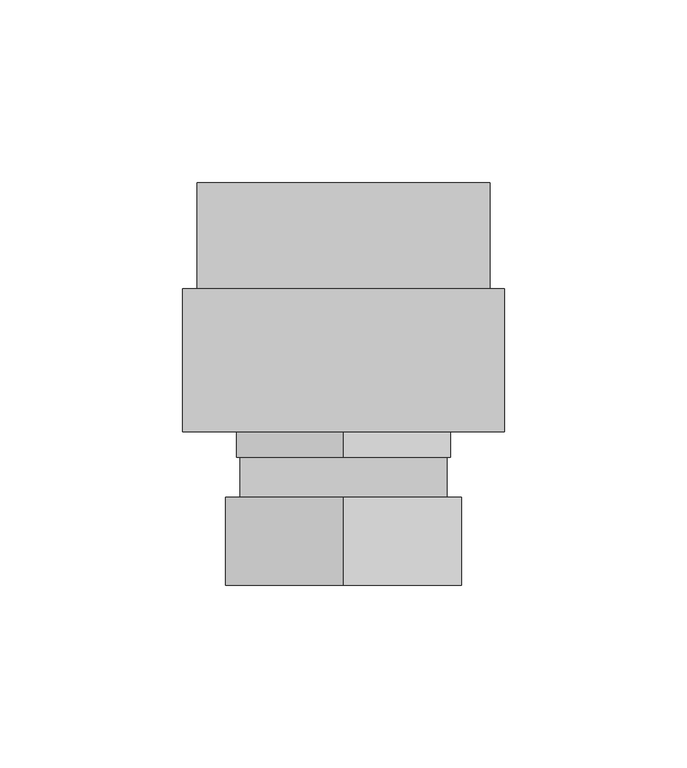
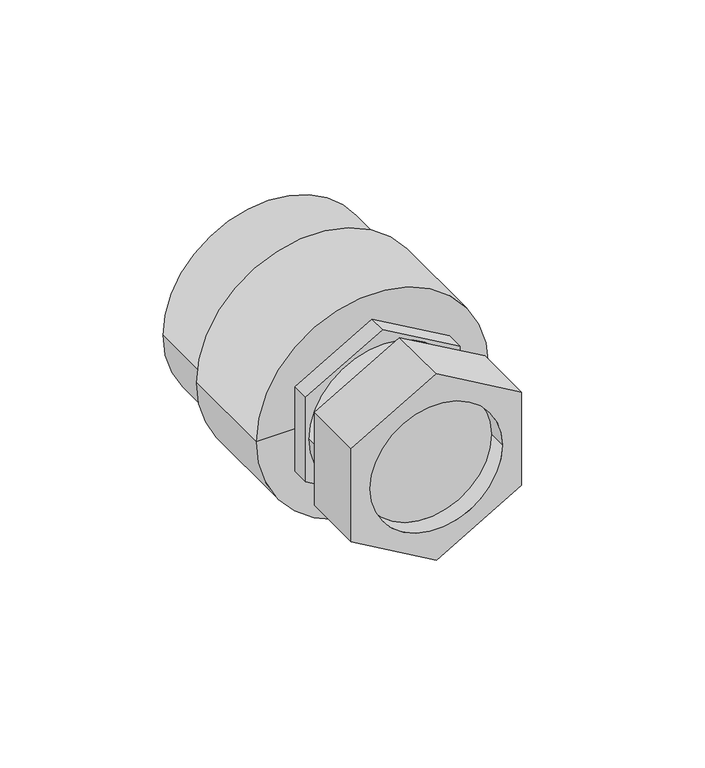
"""IFC4 building model written with IfcOpenShell, lengths in millimetres: pipe fitting geometry, NIRON RED termofusion roscado racor loco : Estándar."""

import ifcopenshell
import ifcopenshell.guid

model = None  # the IFC model being written
_history = None  # IfcOwnerHistory: only IFC2X3 demands one
_inside = {}  # id of a spatial element -> (the spatial element, [elements in it])
_under = {}  # id of a project, library or spatial element -> (it, [spatial elements below it])
_declared = {}  # id of a project -> (the project, [libraries it declares])
_typed = {}  # id of a type object -> (the type object, [elements of that type])
_made_of = {}  # id of a material, layer set ... -> (it, [elements and type objects made of it])


def new_model(schema):
    """Start an empty IFC model of exactly this schema.

    Asked for "IFC4X3", IfcOpenShell would pick the latest addendum, in which some entities
    have other attributes; the version numbers below select the first issue.
    IFC2X3 requires an IfcOwnerHistory on every rooted entity: one is made here for all.
    """
    global model, _history
    if schema == "IFC4X3":
        model = ifcopenshell.file(schema_version=(4, 3, 0, 0))
    else:
        model = ifcopenshell.file(schema=schema)
    _inside.clear()
    _under.clear()
    _declared.clear()
    _typed.clear()
    _made_of.clear()
    _history = None
    if model.schema == "IFC2X3":
        org = make("IfcOrganization", Name="unknown")
        user = make(
            "IfcPersonAndOrganization",
            ThePerson=make("IfcPerson", FamilyName="unknown"),
            TheOrganization=org,
        )
        app = make(
            "IfcApplication",
            ApplicationDeveloper=org,
            Version="unknown",
            ApplicationFullName="unknown",
            ApplicationIdentifier="unknown",
        )
        _history = make(
            "IfcOwnerHistory",
            OwningUser=user,
            OwningApplication=app,
            ChangeAction="ADDED",
            CreationDate=0,
        )
    return model


def make(cls, **values):
    """One entity of the class cls with the attributes given. An attribute that is None is left unset."""
    return model.create_entity(
        cls, **{name: value for name, value in values.items() if value is not None}
    )


def rooted(cls, **values):
    """An entity with a GlobalId (a new one), such as an element, a storey or a relation."""
    return make(cls, GlobalId=ifcopenshell.guid.new(), OwnerHistory=_history, **values)


def si_unit(unit_type, name, prefix=None):
    """IfcSIUnit, for example si_unit("LENGTHUNIT", "METRE", prefix="MILLI")."""
    return make("IfcSIUnit", UnitType=unit_type, Prefix=prefix, Name=name)


def assignment(units):
    """IfcUnitAssignment: the units of a project."""
    return None if units is None else make("IfcUnitAssignment", Units=units)


def point(xyz):
    """IfcCartesianPoint."""
    return None if xyz is None else make("IfcCartesianPoint", Coordinates=xyz)


def direction(xyz):
    """IfcDirection."""
    return None if xyz is None else make("IfcDirection", DirectionRatios=xyz)


def frame(location, z_axis=None, x_axis=None):
    """IfcAxis2Placement3D, a coordinate frame: its origin and axes. An axis left out is left unset."""
    return make(
        "IfcAxis2Placement3D",
        Location=point(location),
        Axis=direction(z_axis),
        RefDirection=direction(x_axis),
    )


def frame_2d(location, x_axis=None):
    """IfcAxis2Placement2D, a coordinate frame in the plane: its origin and x axis."""
    return make(
        "IfcAxis2Placement2D", Location=point(location), RefDirection=direction(x_axis)
    )


def origin():
    """The frame at (0, 0, 0) with its axes left unset."""
    return frame((0.0, 0.0, 0.0))


def origin_2d():
    """The frame at (0, 0) in the plane with its x axis left unset."""
    return frame_2d((0.0, 0.0))


def place(relative_to, where):
    """IfcLocalPlacement: puts the frame where relative to a parent placement (None: the world)."""
    return make(
        "IfcLocalPlacement", PlacementRelTo=relative_to, RelativePlacement=where
    )


def context(
    kind, dimensions, precision=None, world=None, true_north=None, identifier=None
):
    """IfcGeometricRepresentationContext, for example the 3D "Model" context."""
    return make(
        "IfcGeometricRepresentationContext",
        ContextIdentifier=identifier,
        ContextType=kind,
        CoordinateSpaceDimension=dimensions,
        Precision=precision,
        WorldCoordinateSystem=world,
        TrueNorth=true_north,
    )


def project(units=None, contexts=None):
    """IfcProject with its units and contexts."""
    return rooted(
        "IfcProject",
        Name="project",
        RepresentationContexts=contexts,
        UnitsInContext=assignment(units),
    )


def spatial(cls, under=None, at=None, **own):
    """A site, building, storey or space (cls), placed at a placement, below another one or the project."""
    s = rooted(cls, ObjectPlacement=at, **own)
    if under is not None:
        _under.setdefault(under.id(), (under, []))[1].append(s)
    return s


def polyline(points):
    """IfcPolyline through the points."""
    return make("IfcPolyline", Points=[point(p) for p in points])


def circle_curve(where, radius):
    """IfcCircle in the frame where."""
    return make("IfcCircle", Position=where, Radius=radius)


def trimmed(basis, trim1, trim2, sense, master):
    """IfcTrimmedCurve: the piece of a basis curve between two trims."""
    return make(
        "IfcTrimmedCurve",
        BasisCurve=basis,
        Trim1=trim1,
        Trim2=trim2,
        SenseAgreement=sense,
        MasterRepresentation=master,
    )


def segment(curve, same_sense, transition):
    """IfcCompositeCurveSegment."""
    return make(
        "IfcCompositeCurveSegment",
        Transition=transition,
        SameSense=same_sense,
        ParentCurve=curve,
    )


def composite_curve(segments, self_intersect=None):
    """IfcCompositeCurve: segments joined end to end."""
    return make("IfcCompositeCurve", Segments=segments, SelfIntersect=self_intersect)


def outline(outer, holes=None, kind="AREA"):
    """IfcArbitraryClosedProfileDef: a profile drawn as a closed curve; with holes, ...WithVoids."""
    if holes is None:
        return make("IfcArbitraryClosedProfileDef", ProfileType=kind, OuterCurve=outer)
    return make(
        "IfcArbitraryProfileDefWithVoids",
        ProfileType=kind,
        OuterCurve=outer,
        InnerCurves=holes,
    )


def extrude(swept, where, along, depth):
    """IfcExtrudedAreaSolid: the profile swept, set in the frame where, extruded along a direction by depth."""
    return make(
        "IfcExtrudedAreaSolid",
        SweptArea=swept,
        Position=where,
        ExtrudedDirection=direction(along),
        Depth=depth,
    )


def shape(context_of_items, identifier, shape_type, items):
    """IfcShapeRepresentation: the items that make up one representation, for example the "Body"."""
    return make(
        "IfcShapeRepresentation",
        ContextOfItems=context_of_items,
        RepresentationIdentifier=identifier,
        RepresentationType=shape_type,
        Items=items,
    )


def source(mapping_origin, context_of_items, identifier, shape_type, items):
    """IfcRepresentationMap: a shape defined once, which mapped items show again and again."""
    return make(
        "IfcRepresentationMap",
        MappingOrigin=mapping_origin,
        MappedRepresentation=shape(context_of_items, identifier, shape_type, items),
    )


def transform(
    local_origin,
    x_axis=None,
    y_axis=None,
    z_axis=None,
    scale=None,
    scale2=None,
    scale3=None,
    uniform=True,
):
    """IfcCartesianTransformationOperator3D, or its non-uniform kind. x_axis, y_axis, z_axis: its Axis1, 2, 3."""
    if uniform:
        return make(
            "IfcCartesianTransformationOperator3D",
            Axis1=direction(x_axis),
            Axis2=direction(y_axis),
            LocalOrigin=point(local_origin),
            Scale=scale,
            Axis3=direction(z_axis),
        )
    return make(
        "IfcCartesianTransformationOperator3DnonUniform",
        Axis1=direction(x_axis),
        Axis2=direction(y_axis),
        LocalOrigin=point(local_origin),
        Scale=scale,
        Axis3=direction(z_axis),
        Scale2=scale2,
        Scale3=scale3,
    )


def mapped(mapping_source, mapping_target):
    """IfcMappedItem: shows the shape of a source again, moved by a transform."""
    return make(
        "IfcMappedItem", MappingSource=mapping_source, MappingTarget=mapping_target
    )


def made_of(thing, what):
    """Note that an element or type object is made of a material, layer set ...; save() writes the relation."""
    if what is not None:
        _made_of.setdefault(what.id(), (what, []))[1].append(thing)
    return thing


def element(
    cls,
    number,
    at=None,
    inside=None,
    cuts=None,
    type_object=None,
    material=None,
    context=None,
    identifier="Body",
    shape_type=None,
    held_by="IfcProductDefinitionShape",
    body=None,
    shapes=None,
    **own,
):
    """One element of the class cls, such as IfcWall. Its Tag is "e" and its number.

    at: its placement. inside: the storey or other place that contains it. cuts: it is an
    opening in that element (IfcRelVoidsElement). A single representation is given by context,
    identifier, shape_type and body (its items); several are given by shapes. held_by: the class
    of the entity that holds the representations. save() writes the other relations.
    """
    e = rooted(cls, Tag="e%d" % number, ObjectPlacement=at, **own)
    if body is not None:
        shapes = [shape(context, identifier, shape_type, body)]
    if shapes is not None:
        e.Representation = make(held_by, Representations=shapes)
    if inside is not None:
        _inside.setdefault(inside.id(), (inside, []))[1].append(e)
    if cuts is not None:
        rooted(
            "IfcRelVoidsElement", RelatingBuildingElement=cuts, RelatedOpeningElement=e
        )
    if type_object is not None:
        _typed.setdefault(type_object.id(), (type_object, []))[1].append(e)
    return made_of(e, material)


def aggregate(whole, parts):
    """IfcRelAggregates: a whole, such as a stair, and the parts it consists of."""
    return rooted("IfcRelAggregates", RelatingObject=whole, RelatedObjects=parts)


def save(model, path):
    """Write the relations noted so far, then the file.

    IfcRelAggregates (storeys below a building ...), IfcRelContainedInSpatialStructure (elements
    in a storey), IfcRelDefinesByType, IfcRelAssociatesMaterial and IfcRelDeclares: one each for
    every whole, place, type object, material and project.
    """
    for whole, parts in _under.values():
        aggregate(whole, parts)
    for where, things in _inside.values():
        rooted(
            "IfcRelContainedInSpatialStructure",
            RelatedElements=things,
            RelatingStructure=where,
        )
    for kind, things in _typed.values():
        rooted("IfcRelDefinesByType", RelatedObjects=things, RelatingType=kind)
    for what, things in _made_of.values():
        rooted("IfcRelAssociatesMaterial", RelatedObjects=things, RelatingMaterial=what)
    for by, libraries in _declared.values():
        rooted("IfcRelDeclares", RelatingContext=by, RelatedDefinitions=libraries)
    model.write(path)


def plane_surface(at):
    """IfcPlane: the flat surface through the origin of the frame at, square to its z axis."""
    return make("IfcPlane", Position=at)


def cylinder_surface(at, radius):
    """IfcCylindricalSurface: all points at the distance radius from the z axis of the frame at."""
    return make("IfcCylindricalSurface", Position=at, Radius=radius)


def revolved_surface(curve, axis_point, axis_direction):
    """IfcSurfaceOfRevolution: the curve turned about the line through axis_point along axis_direction."""
    return make(
        "IfcSurfaceOfRevolution",
        SweptCurve=make("IfcArbitraryOpenProfileDef", ProfileType="CURVE", Curve=curve),
        AxisPosition=make("IfcAxis1Placement", Location=point(axis_point), Axis=direction(axis_direction)),
    )


def advanced_brep(points, edges, surfaces, faces):
    """IfcAdvancedBrep: a solid bounded by faces that lie on surfaces and meet in shared edges.

    An edge is (start, end): straight between two places in points (the first is 0);
    or (start, end, curve); or (start, end, curve, False) where it runs against its curve.
    A face is (place in surfaces, loops), or (place, loops, False) where it looks against
    its surface's normal. A loop lists edges by number (the first is 1), with a minus sign
    where the edge is run from its end to its start. The first loop is the outer one.
    """
    corners = [point(p) for p in points]
    vertices = [make("IfcVertexPoint", VertexGeometry=c) for c in corners]
    made = []
    for start, end, *more in edges:
        made.append(
            make(
                "IfcEdgeCurve",
                EdgeStart=vertices[start],
                EdgeEnd=vertices[end],
                EdgeGeometry=more[0] if more else make("IfcPolyline", Points=[corners[start], corners[end]]),
                SameSense=more[1] if len(more) > 1 else True,
            )
        )
    hull = []
    for where, loops, *sense in faces:
        bounds = []
        for j, loop in enumerate(loops):
            ring = [make("IfcOrientedEdge", EdgeElement=made[abs(k) - 1], Orientation=k > 0) for k in loop]
            bounds.append(
                make(
                    "IfcFaceOuterBound" if j == 0 else "IfcFaceBound",
                    Bound=make("IfcEdgeLoop", EdgeList=ring),
                    Orientation=True,
                )
            )
        hull.append(make("IfcAdvancedFace", Bounds=bounds, FaceSurface=surfaces[where], SameSense=sense[0] if sense else True))
    return make("IfcAdvancedBrep", Outer=make("IfcClosedShell", CfsFaces=hull))


def pipe_fitting_b4a654ed(model_context):
    return source(origin(), model_context, "Body", "SolidModel", [
        advanced_brep(
        [(32.25, 9.0, -18.6195462), (32.25, 9.0, 18.6195462), (0.0, 9.0, 37.2390924), (-32.25, 9.0, 18.6195462), (-32.25, 9.0, -18.6195462), (0.0, 9.0, -37.2390924), (25.0, 9.0, 0.0), (-25.0, 9.0, 0.0), (32.25, 33.0, -18.6195462), (0.0, 33.0, -37.2390924), (-32.25, 33.0, -18.6195462), (-32.25, 33.0, 18.6195462), (0.0, 33.0, 37.2390924), (32.25, 33.0, 18.6195462), (-25.0, 16.0570795, 0.0), (25.0, 16.0570795, 0.0)],
        [
            (0, 1),
            (1, 2),
            (2, 3),
            (3, 4),
            (4, 5),
            (5, 0),
            (6, 7, circle_curve(frame((0.0, 9.0, 0.0), z_axis=(0.0, 1.0, 0.0), x_axis=(1.0, 0.0, 0.0)), 25.0)),
            (7, 6, circle_curve(frame((0.0, 9.0, 0.0), z_axis=(0.0, 1.0, 0.0), x_axis=(1.0, 0.0, 0.0)), 25.0)),
            (8, 9),
            (9, 10),
            (10, 11),
            (11, 12),
            (12, 13),
            (13, 8),
            (0, 8),
            (13, 1),
            (12, 2),
            (11, 3),
            (10, 4),
            (9, 5),
            (14, 15, circle_curve(frame((0.0, 16.0570795, 0.0), z_axis=(0.0, -1.0, 0.0), x_axis=(1.0, 0.0, 0.0)), 25.0)),
            (15, 14, circle_curve(frame((0.0, 16.0570795, 0.0), z_axis=(0.0, -1.0, 0.0), x_axis=(1.0, 0.0, 0.0)), 25.0)),
            (14, 7),
            (6, 15),
        ],
        [
            plane_surface(frame((0.0, 9.0, 0.0), z_axis=(0.0, -1.0, 0.0), x_axis=(0.0, 0.0, 1.0))),
            plane_surface(frame((0.0, 33.0, 0.0), z_axis=(0.0, 1.0, 0.0), x_axis=(0.0, 0.0, 1.0))),
            plane_surface(frame((32.25, 9.0, -18.6195462), z_axis=(1.0, 0.0, 0.0), x_axis=(0.0, 1.0, 0.0))),
            plane_surface(frame((32.25, 9.0, 18.6195462), z_axis=(0.4999999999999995, 0.0, 0.866025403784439), x_axis=(0.0, 1.0, 0.0))),
            plane_surface(frame((0.0, 9.0, 37.2390924), z_axis=(-0.4999999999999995, 0.0, 0.866025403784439), x_axis=(0.0, 1.0, 0.0))),
            plane_surface(frame((-32.25, 9.0, 18.6195462), z_axis=(-1.0, 0.0, 0.0), x_axis=(0.0, 1.0, 0.0))),
            plane_surface(frame((-32.25, 9.0, -18.6195462), z_axis=(-0.49999999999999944, 0.0, -0.866025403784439), x_axis=(0.0, 1.0, 0.0))),
            plane_surface(frame((0.0, 9.0, -37.2390924), z_axis=(0.4999999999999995, 0.0, -0.8660254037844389), x_axis=(0.0, 1.0, 0.0))),
            plane_surface(frame((25.0, 16.0570795, 0.0), z_axis=(0.0, -1.0, 0.0), x_axis=(0.0, 0.0, -1.0))),
            revolved_surface(polyline([(25.0, 9.0, 0.0), (25.0, 16.0570795, 0.0)]), (0.0, 16.0570795, 0.0), (0.0, -1.0, 0.0)),
        ],
        [
            (0, [[1, 2, 3, 4, 5, 6], [7, 8]]),
            (1, [[9, 10, 11, 12, 13, 14]]),
            (2, [[-1, 15, -14, 16]]),
            (3, [[-2, -16, -13, 17]]),
            (4, [[-3, -17, -12, 18]]),
            (5, [[-4, -18, -11, 19]]),
            (6, [[-5, -19, -10, 20]]),
            (7, [[-6, -20, -9, -15]]),
            (8, [[21, 22]]),
            (9, [[-21, 23, -7, 24]]),
            (9, [[-22, -24, -8, -23]]),
        ],
    ),
        extrude(outline(polyline([(-16.8874954, 29.25), (16.8874954, 29.25), (33.7749907, 0.0), (16.8874954, -29.25), (-16.8874954, -29.25), (-33.7749907, 0.0), (-16.8874954, 29.25)])), frame((0.0, 44.0, 0.0), z_axis=(0.0, 1.0, 0.0), x_axis=(0.0, 0.0, 1.0)), (0.0, 0.0, 1.0), 7.0),
        extrude(outline(composite_curve([segment(trimmed(circle_curve(origin_2d(), 28.25), [point((0.0, -28.25))], [point((0.0, 28.25))], False, "CARTESIAN"), True, "CONTINUOUS"), segment(trimmed(circle_curve(origin_2d(), 28.25), [point((0.0, 28.25))], [point((0.0, -28.25))], False, "CARTESIAN"), True, "CONTINUOUS")], self_intersect=False)), frame((0.0, 33.0, 0.0), z_axis=(0.0, 1.0, 0.0), x_axis=(0.0, 0.0, 1.0)), (0.0, 0.0, 1.0), 11.0),
        advanced_brep(
        [(40.0, 119.0, 0.0), (-40.0, 119.0, 0.0), (0.0, 119.0, 0.0), (44.0, 51.0, 0.0), (-44.0, 51.0, 0.0), (-44.0, 90.0, 0.0), (44.0, 90.0, 0.0), (0.0, 51.0, 0.0), (40.0, 90.0, 0.0), (-40.0, 90.0, 0.0)],
        [
            (0, 1, circle_curve(frame((0.0, 119.0, 0.0), z_axis=(0.0, 1.0, 0.0), x_axis=(-1.0, 0.0, 0.0)), 40.0)),
            (1, 2),
            (2, 0),
            (1, 0, circle_curve(frame((0.0, 119.0, 0.0), z_axis=(0.0, 1.0, 0.0), x_axis=(-1.0, 0.0, 0.0)), 40.0)),
            (3, 4, circle_curve(frame((0.0, 51.0, 0.0), z_axis=(0.0, 1.0, 0.0), x_axis=(-1.0, 0.0, 0.0)), 44.0)),
            (4, 5),
            (5, 6, circle_curve(frame((0.0, 90.0, 0.0), z_axis=(0.0, -1.0, 0.0), x_axis=(-1.0, 0.0, 0.0)), 44.0)),
            (6, 3),
            (4, 3, circle_curve(frame((0.0, 51.0, 0.0), z_axis=(0.0, 1.0, 0.0), x_axis=(-1.0, 0.0, 0.0)), 44.0)),
            (6, 5, circle_curve(frame((0.0, 90.0, 0.0), z_axis=(0.0, -1.0, 0.0), x_axis=(-1.0, 0.0, 0.0)), 44.0)),
            (7, 4),
            (3, 7),
            (8, 9, circle_curve(frame((0.0, 90.0, 0.0), z_axis=(0.0, 1.0, 0.0), x_axis=(-1.0, 0.0, 0.0)), 40.0)),
            (9, 1),
            (0, 8),
            (9, 8, circle_curve(frame((0.0, 90.0, 0.0), z_axis=(0.0, 1.0, 0.0), x_axis=(-1.0, 0.0, 0.0)), 40.0)),
            (5, 9),
            (8, 6),
        ],
        [
            plane_surface(frame((0.0, 119.0, 0.0), z_axis=(0.0, 1.0, 0.0), x_axis=(-1.0, 0.0, 0.0))),
            cylinder_surface(frame((0.0, 129.0, 0.0), z_axis=(0.0, -1.0, 0.0), x_axis=(-1.0, 0.0, 0.0)), 44.0),
            plane_surface(frame((0.0, 51.0, 0.0), z_axis=(0.0, -1.0, 0.0), x_axis=(-1.0, 0.0, 0.0))),
            cylinder_surface(frame((0.0, 129.0, 0.0), z_axis=(0.0, -1.0, 0.0), x_axis=(-1.0, 0.0, 0.0)), 40.0),
            plane_surface(frame((0.0, 90.0, 0.0), z_axis=(0.0, 1.0, 0.0), x_axis=(-1.0, 0.0, 0.0))),
        ],
        [
            (0, [[1, 2, 3]]),
            (0, [[4, -3, -2]]),
            (1, [[5, 6, 7, 8]]),
            (1, [[9, -8, 10, -6]]),
            (2, [[11, -5, 12]]),
            (2, [[-12, -9, -11]]),
            (3, [[13, 14, -1, 15]]),
            (3, [[16, -15, -4, -14]]),
            (4, [[-7, 17, -13, 18]]),
            (4, [[-10, -18, -16, -17]]),
        ],
    ),
    ])


if __name__ == "__main__":
    model = new_model("IFC4")
    model_context = context("Model", 3, world=origin())
    ifc_project = project(units=[si_unit("LENGTHUNIT", "METRE", prefix="MILLI")], contexts=[model_context])
    site = spatial("IfcSite", under=ifc_project)
    building = spatial("IfcBuilding", under=site)
    placement = place(None, origin())
    pipe_fitting_shape = pipe_fitting_b4a654ed(model_context)
    element("IfcPipeFitting", 1, ObjectType="NIRON RED termofusion roscado racor loco : Estándar", at=placement, inside=building, context=model_context, shape_type="MappedRepresentation", body=[
        mapped(pipe_fitting_shape, transform((0.0, 0.0, 0.0), x_axis=(1.0, 0.0, 0.0), y_axis=(0.0, 1.0, 0.0), z_axis=(0.0, 0.0, 1.0))),
    ])
    save(model, "model.ifc")
